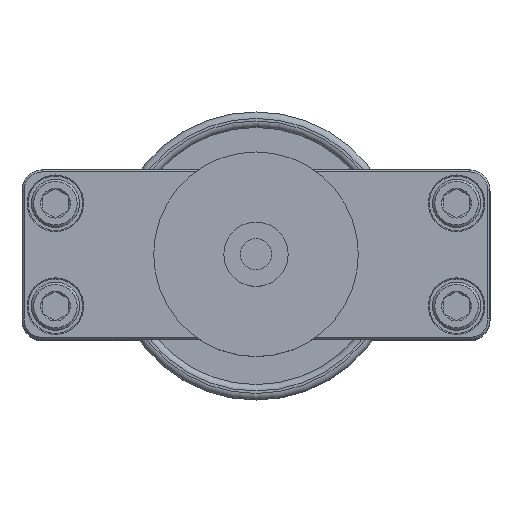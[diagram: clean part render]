
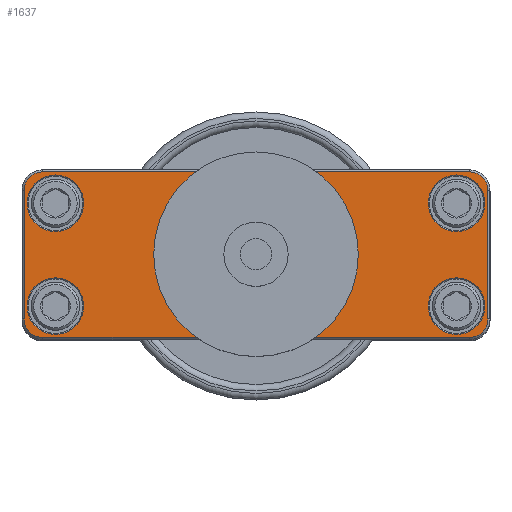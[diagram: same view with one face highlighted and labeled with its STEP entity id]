
A CAD part, top view. The second image highlights one B-rep face of the part: STEP entity #1637.
In plain terms, the highlighted planar face has unit normal (0, 0, 1).
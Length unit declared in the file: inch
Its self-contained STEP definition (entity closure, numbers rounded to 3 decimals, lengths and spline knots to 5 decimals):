
#1251=CARTESIAN_POINT('',(16.5863,-12.3796,-12.65536));
#1252=VERTEX_POINT('',#1251);
#1253=CARTESIAN_POINT('',(16.3113,-12.3796,-12.65536));
#1254=DIRECTION('',(0.0,0.0,1.0));
#1255=DIRECTION('',(-1.0,0.0,0.0));
#1256=AXIS2_PLACEMENT_3D('',#1253,#1254,#1255);
#1257=CIRCLE('',#1256,0.275);
#1258=EDGE_CURVE('',#1252,#1252,#1257,.T.);
#1291=CARTESIAN_POINT('',(16.5863,-13.3796,-12.65536));
#1292=VERTEX_POINT('',#1291);
#1293=CARTESIAN_POINT('',(16.3113,-13.3796,-12.65536));
#1294=DIRECTION('',(0.0,0.0,1.0));
#1295=DIRECTION('',(-1.0,0.0,0.0));
#1296=AXIS2_PLACEMENT_3D('',#1293,#1294,#1295);
#1297=CIRCLE('',#1296,0.275);
#1298=EDGE_CURVE('',#1292,#1292,#1297,.T.);
#1429=CARTESIAN_POINT('',(20.4863,-12.3796,-12.65536));
#1430=VERTEX_POINT('',#1429);
#1431=CARTESIAN_POINT('',(20.2113,-12.3796,-12.65536));
#1432=DIRECTION('',(0.0,0.0,1.0));
#1433=DIRECTION('',(-1.0,0.0,0.0));
#1434=AXIS2_PLACEMENT_3D('',#1431,#1432,#1433);
#1435=CIRCLE('',#1434,0.275);
#1436=EDGE_CURVE('',#1430,#1430,#1435,.T.);
#1469=CARTESIAN_POINT('',(20.4863,-13.3796,-12.65536));
#1470=VERTEX_POINT('',#1469);
#1471=CARTESIAN_POINT('',(20.2113,-13.3796,-12.65536));
#1472=DIRECTION('',(0.0,0.0,1.0));
#1473=DIRECTION('',(-1.0,0.0,0.0));
#1474=AXIS2_PLACEMENT_3D('',#1471,#1472,#1473);
#1475=CIRCLE('',#1474,0.275);
#1476=EDGE_CURVE('',#1470,#1470,#1475,.T.);
#1481=CARTESIAN_POINT('',(18.2613,-12.8796,-12.65536));
#1482=DIRECTION('',(0.0,0.0,1.0));
#1483=DIRECTION('',(0.0,-1.0,0.0));
#1484=AXIS2_PLACEMENT_3D('',#1481,#1482,#1483);
#1485=PLANE('',#1484);
#1486=CARTESIAN_POINT('',(17.9413,-13.5046,-12.65536));
#1487=VERTEX_POINT('',#1486);
#1488=CARTESIAN_POINT('',(17.7613,-13.6846,-12.65536));
#1489=VERTEX_POINT('',#1488);
#1490=CARTESIAN_POINT('',(17.7613,-13.5046,-12.65536));
#1491=DIRECTION('',(0.,0.,-1.0));
#1492=DIRECTION('',(0.707,-0.707,0.));
#1493=AXIS2_PLACEMENT_3D('',#1490,#1491,#1492);
#1494=CIRCLE('',#1493,0.18);
#1495=EDGE_CURVE('',#1487,#1489,#1494,.T.);
#1496=ORIENTED_EDGE('',*,*,#1495,.F.);
#1497=CARTESIAN_POINT('',(17.9413,-13.33016,-12.65536));
#1498=VERTEX_POINT('',#1497);
#1499=CARTESIAN_POINT('',(17.9413,-13.33016,-12.65536));
#1500=DIRECTION('',(0.0,-1.0,0.0));
#1501=VECTOR('',#1500,0.17444);
#1502=LINE('',#1499,#1501);
#1503=EDGE_CURVE('',#1498,#1487,#1502,.T.);
#1504=ORIENTED_EDGE('',*,*,#1503,.F.);
#1505=CARTESIAN_POINT('',(17.91441,-13.27033,-12.65536));
#1506=VERTEX_POINT('',#1505);
#1507=CARTESIAN_POINT('',(17.8613,-13.33016,-12.65536));
#1508=DIRECTION('',(0.,0.,-1.0));
#1509=DIRECTION('',(0.912,0.41,0.));
#1510=AXIS2_PLACEMENT_3D('',#1507,#1508,#1509);
#1511=CIRCLE('',#1510,0.08);
#1512=EDGE_CURVE('',#1506,#1498,#1511,.T.);
#1513=ORIENTED_EDGE('',*,*,#1512,.F.);
#1514=CARTESIAN_POINT('',(18.60819,-13.27033,-12.65536));
#1515=VERTEX_POINT('',#1514);
#1516=CARTESIAN_POINT('',(18.2613,-12.8796,-12.65536));
#1517=DIRECTION('',(0.0,0.0,1.0));
#1518=DIRECTION('',(-1.0,0.0,0.0));
#1519=AXIS2_PLACEMENT_3D('',#1516,#1517,#1518);
#1520=CIRCLE('',#1519,0.5225);
#1521=EDGE_CURVE('',#1515,#1506,#1520,.T.);
#1522=ORIENTED_EDGE('',*,*,#1521,.F.);
#1523=CARTESIAN_POINT('',(18.5813,-13.33016,-12.65536));
#1524=VERTEX_POINT('',#1523);
#1525=CARTESIAN_POINT('',(18.6613,-13.33016,-12.65536));
#1526=DIRECTION('',(0.,0.,-1.0));
#1527=DIRECTION('',(-0.912,0.41,0.));
#1528=AXIS2_PLACEMENT_3D('',#1525,#1526,#1527);
#1529=CIRCLE('',#1528,0.08);
#1530=EDGE_CURVE('',#1524,#1515,#1529,.T.);
#1531=ORIENTED_EDGE('',*,*,#1530,.F.);
#1532=CARTESIAN_POINT('',(18.5813,-13.5046,-12.65536));
#1533=VERTEX_POINT('',#1532);
#1534=CARTESIAN_POINT('',(18.5813,-13.5046,-12.65536));
#1535=DIRECTION('',(0.0,1.0,0.0));
#1536=VECTOR('',#1535,0.17444);
#1537=LINE('',#1534,#1536);
#1538=EDGE_CURVE('',#1533,#1524,#1537,.T.);
#1539=ORIENTED_EDGE('',*,*,#1538,.F.);
#1540=CARTESIAN_POINT('',(18.7613,-13.6846,-12.65536));
#1541=VERTEX_POINT('',#1540);
#1542=CARTESIAN_POINT('',(18.7613,-13.5046,-12.65536));
#1543=DIRECTION('',(0.,0.,-1.0));
#1544=DIRECTION('',(-0.707,-0.707,0.));
#1545=AXIS2_PLACEMENT_3D('',#1542,#1543,#1544);
#1546=CIRCLE('',#1545,0.18);
#1547=EDGE_CURVE('',#1541,#1533,#1546,.T.);
#1548=ORIENTED_EDGE('',*,*,#1547,.F.);
#1549=CARTESIAN_POINT('',(20.3363,-13.6846,-12.65536));
#1550=VERTEX_POINT('',#1549);
#1551=CARTESIAN_POINT('',(20.3363,-13.6846,-12.65536));
#1552=DIRECTION('',(-1.0,0.0,0.0));
#1553=VECTOR('',#1552,1.575);
#1554=LINE('',#1551,#1553);
#1555=EDGE_CURVE('',#1550,#1541,#1554,.T.);
#1556=ORIENTED_EDGE('',*,*,#1555,.F.);
#1557=CARTESIAN_POINT('',(20.5163,-13.5046,-12.65536));
#1558=VERTEX_POINT('',#1557);
#1559=CARTESIAN_POINT('',(20.3363,-13.5046,-12.65536));
#1560=DIRECTION('',(0.,0.,-1.0));
#1561=DIRECTION('',(0.707,-0.707,0.));
#1562=AXIS2_PLACEMENT_3D('',#1559,#1560,#1561);
#1563=CIRCLE('',#1562,0.18);
#1564=EDGE_CURVE('',#1558,#1550,#1563,.T.);
#1565=ORIENTED_EDGE('',*,*,#1564,.F.);
#1566=CARTESIAN_POINT('',(20.5163,-12.2546,-12.65536));
#1567=VERTEX_POINT('',#1566);
#1568=CARTESIAN_POINT('',(20.5163,-12.2546,-12.65536));
#1569=DIRECTION('',(0.0,-1.0,0.0));
#1570=VECTOR('',#1569,1.25);
#1571=LINE('',#1568,#1570);
#1572=EDGE_CURVE('',#1567,#1558,#1571,.T.);
#1573=ORIENTED_EDGE('',*,*,#1572,.F.);
#1574=CARTESIAN_POINT('',(20.3363,-12.0746,-12.65536));
#1575=VERTEX_POINT('',#1574);
#1576=CARTESIAN_POINT('',(20.3363,-12.2546,-12.65536));
#1577=DIRECTION('',(0.,0.,-1.));
#1578=DIRECTION('',(0.707,0.707,0.));
#1579=AXIS2_PLACEMENT_3D('',#1576,#1577,#1578);
#1580=CIRCLE('',#1579,0.18);
#1581=EDGE_CURVE('',#1575,#1567,#1580,.T.);
#1582=ORIENTED_EDGE('',*,*,#1581,.F.);
#1583=CARTESIAN_POINT('',(16.1863,-12.0746,-12.65536));
#1584=VERTEX_POINT('',#1583);
#1585=CARTESIAN_POINT('',(16.1863,-12.0746,-12.65536));
#1586=DIRECTION('',(1.0,0.0,0.0));
#1587=VECTOR('',#1586,4.15);
#1588=LINE('',#1585,#1587);
#1589=EDGE_CURVE('',#1584,#1575,#1588,.T.);
#1590=ORIENTED_EDGE('',*,*,#1589,.F.);
#1591=CARTESIAN_POINT('',(16.0063,-12.2546,-12.65536));
#1592=VERTEX_POINT('',#1591);
#1593=CARTESIAN_POINT('',(16.1863,-12.2546,-12.65536));
#1594=DIRECTION('',(0.,0.,-1.0));
#1595=DIRECTION('',(-0.707,0.707,0.));
#1596=AXIS2_PLACEMENT_3D('',#1593,#1594,#1595);
#1597=CIRCLE('',#1596,0.18);
#1598=EDGE_CURVE('',#1592,#1584,#1597,.T.);
#1599=ORIENTED_EDGE('',*,*,#1598,.F.);
#1600=CARTESIAN_POINT('',(16.0063,-13.5046,-12.65536));
#1601=VERTEX_POINT('',#1600);
#1602=CARTESIAN_POINT('',(16.0063,-13.5046,-12.65536));
#1603=DIRECTION('',(0.0,1.0,0.0));
#1604=VECTOR('',#1603,1.25);
#1605=LINE('',#1602,#1604);
#1606=EDGE_CURVE('',#1601,#1592,#1605,.T.);
#1607=ORIENTED_EDGE('',*,*,#1606,.F.);
#1608=CARTESIAN_POINT('',(16.1863,-13.6846,-12.65536));
#1609=VERTEX_POINT('',#1608);
#1610=CARTESIAN_POINT('',(16.1863,-13.5046,-12.65536));
#1611=DIRECTION('',(0.,0.,-1.));
#1612=DIRECTION('',(-0.707,-0.707,0.));
#1613=AXIS2_PLACEMENT_3D('',#1610,#1611,#1612);
#1614=CIRCLE('',#1613,0.18);
#1615=EDGE_CURVE('',#1609,#1601,#1614,.T.);
#1616=ORIENTED_EDGE('',*,*,#1615,.F.);
#1617=CARTESIAN_POINT('',(17.7613,-13.6846,-12.65536));
#1618=DIRECTION('',(-1.0,0.0,0.0));
#1619=VECTOR('',#1618,1.575);
#1620=LINE('',#1617,#1619);
#1621=EDGE_CURVE('',#1489,#1609,#1620,.T.);
#1622=ORIENTED_EDGE('',*,*,#1621,.F.);
#1623=EDGE_LOOP('',(#1496,#1504,#1513,#1522,#1531,#1539,#1548,#1556,#1565,#1573,#1582,#1590,#1599,#1607,#1616,#1622));
#1624=FACE_OUTER_BOUND('',#1623,.T.);
#1625=ORIENTED_EDGE('',*,*,#1476,.F.);
#1626=EDGE_LOOP('',(#1625));
#1627=FACE_BOUND('',#1626,.T.);
#1628=ORIENTED_EDGE('',*,*,#1436,.F.);
#1629=EDGE_LOOP('',(#1628));
#1630=FACE_BOUND('',#1629,.T.);
#1631=ORIENTED_EDGE('',*,*,#1258,.F.);
#1632=EDGE_LOOP('',(#1631));
#1633=FACE_BOUND('',#1632,.T.);
#1634=ORIENTED_EDGE('',*,*,#1298,.F.);
#1635=EDGE_LOOP('',(#1634));
#1636=FACE_BOUND('',#1635,.T.);
#1637=ADVANCED_FACE('',(#1624,#1627,#1630,#1633,#1636),#1485,.T.);
